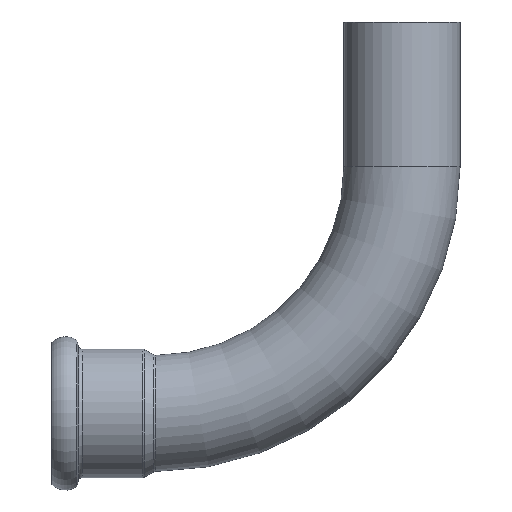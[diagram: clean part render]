
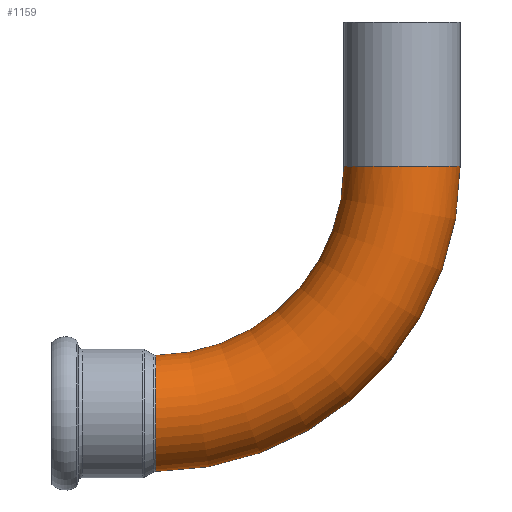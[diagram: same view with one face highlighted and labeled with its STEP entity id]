
A CAD part, top view. The second image highlights one B-rep face of the part: STEP entity #1159.
In plain terms, the highlighted toroidal (fillet/blend) face has major radius 60 mm and minor radius 14.1 mm.
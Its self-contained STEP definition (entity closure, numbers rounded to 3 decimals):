
#77 = CARTESIAN_POINT ( 'NONE',  ( 0.253, -47.882, 7.265 ) ) ;
#80 = CARTESIAN_POINT ( 'NONE',  ( 0.254, -45.942, 1.12 ) ) ;
#112 = DIRECTION ( 'NONE',  ( 1., 0., 0. ) ) ;
#115 = CARTESIAN_POINT ( 'NONE',  ( 0.253, -47.264, 6.069 ) ) ;
#176 = CARTESIAN_POINT ( 'NONE',  ( 0.247, -70.512, 9.408 ) ) ;
#185 = CARTESIAN_POINT ( 'NONE',  ( 0., 0., 0. ) ) ;
#195 = ORIENTED_EDGE ( 'NONE', *, *, #647, .T. ) ;
#214 = DIRECTION ( 'NONE',  ( -1., 0., 0. ) ) ;
#250 = AXIS2_PLACEMENT_3D ( 'NONE', #2084, #2538, #214 ) ;
#271 = CARTESIAN_POINT ( 'NONE',  ( 0.253, -46.597, 4.402 ) ) ;
#285 = CARTESIAN_POINT ( 'NONE',  ( 0.248, -67.82, 11.741 ) ) ;
#299 = CARTESIAN_POINT ( 'NONE',  ( 0.247, -69.586, 10.378 ) ) ;
#308 = DIRECTION ( 'NONE',  ( 0., 0., 1. ) ) ;
#312 = CARTESIAN_POINT ( 'NONE',  ( 0.254, -45.963, 1.344 ) ) ;
#315 = CARTESIAN_POINT ( 'NONE',  ( 45.9, 0., 0. ) ) ;
#361 = DIRECTION ( 'NONE',  ( 0., 0., 1. ) ) ;
#368 = DIRECTION ( 'NONE',  ( 1., 0., 0. ) ) ;
#380 = DIRECTION ( 'NONE',  ( 0., 0., 1. ) ) ;
#476 = ORIENTED_EDGE ( 'NONE', *, *, #2311, .F. ) ;
#537 = CARTESIAN_POINT ( 'NONE',  ( 0.249, -62.448, 13.893 ) ) ;
#576 = VERTEX_POINT ( 'NONE', #315 ) ;
#604 = CARTESIAN_POINT ( 'NONE',  ( 0.247, -73.656, 3.536 ) ) ;
#647 = EDGE_CURVE ( 'NONE', #2672, #752, #1437, .T. ) ;
#700 = CARTESIAN_POINT ( 'NONE',  ( 0.254, -45.899, 0. ) ) ;
#731 = CARTESIAN_POINT ( 'NONE',  ( 0.253, -46.742, 4.824 ) ) ;
#748 = ORIENTED_EDGE ( 'NONE', *, *, #1147, .T. ) ;
#752 = VERTEX_POINT ( 'NONE', #2356 ) ;
#757 = CARTESIAN_POINT ( 'NONE',  ( 0.247, -71.624, 7.993 ) ) ;
#776 = CARTESIAN_POINT ( 'NONE',  ( 0.247, -71.364, 8.358 ) ) ;
#833 = EDGE_CURVE ( 'NONE', #1922, #2534, #1540, .T. ) ;
#907 = CARTESIAN_POINT ( 'NONE',  ( 0.25, -56.236, 13.618 ) ) ;
#921 = CARTESIAN_POINT ( 'NONE',  ( 0.251, -53.337, 12.434 ) ) ;
#923 = CARTESIAN_POINT ( 'NONE',  ( 0.254, -45.963, 1.344 ) ) ;
#1113 = CARTESIAN_POINT ( 'NONE',  ( 0.248, -64.204, 13.489 ) ) ;
#1124 = CARTESIAN_POINT ( 'NONE',  ( 0.254, -45.91, 0.673 ) ) ;
#1145 = CARTESIAN_POINT ( 'NONE',  ( 0.253, -48.364, 8.014 ) ) ;
#1147 = EDGE_CURVE ( 'NONE', #2534, #2672, #1918, .T. ) ;
#1155 = CARTESIAN_POINT ( 'NONE',  ( 0.253, -46.22, 3.12 ) ) ;
#1159 = ADVANCED_FACE ( 'NONE', ( #2005 ), #1473, .T. ) ;
#1169 = CARTESIAN_POINT ( 'NONE',  ( 0.247, -73.256, 4.824 ) ) ;
#1315 = CARTESIAN_POINT ( 'NONE',  ( 0.248, -67.439, 11.986 ) ) ;
#1327 = CARTESIAN_POINT ( 'NONE',  ( 0.251, -52.173, 11.763 ) ) ;
#1342 = CARTESIAN_POINT ( 'NONE',  ( 0.253, -47.076, 5.656 ) ) ;
#1351 = ORIENTED_EDGE ( 'NONE', *, *, #2522, .F. ) ;
#1367 = CARTESIAN_POINT ( 'NONE',  ( 0.249, -62.892, 13.807 ) ) ;
#1373 = AXIS2_PLACEMENT_3D ( 'NONE', #2051, #380, #368 ) ;
#1395 = EDGE_LOOP ( 'NONE', ( #748, #195, #476, #1351, #1762 ) ) ;
#1437 = CIRCLE ( 'NONE', #1565, 74.1 ) ;
#1470 = CARTESIAN_POINT ( 'NONE',  ( 0.254, -45.963, 1.344 ) ) ;
#1473 = TOROIDAL_SURFACE ( 'NONE', #1373, 60., 14.1 ) ;
#1508 = CARTESIAN_POINT ( 'NONE',  ( 0.247, -74.1, 0. ) ) ;
#1525 = CARTESIAN_POINT ( 'NONE',  ( 0.254, -45.899, 0.224 ) ) ;
#1532 = CARTESIAN_POINT ( 'NONE',  ( 0.254, -46.05, 2.243 ) ) ;
#1540 = B_SPLINE_CURVE_WITH_KNOTS ( 'NONE', 3,
 ( #700, #1525, #1124, #80, #923 ),
 .UNSPECIFIED., .F., .F.,
 ( 4, 1, 4 ),
 ( 0., 0.001, 0.001 ),
 .UNSPECIFIED. ) ;
#1551 = CIRCLE ( 'NONE', #250, 14.1 ) ;
#1565 = AXIS2_PLACEMENT_3D ( 'NONE', #185, #361, #2682 ) ;
#1567 = CARTESIAN_POINT ( 'NONE',  ( 0.25, -58.889, 14.063 ) ) ;
#1576 = CARTESIAN_POINT ( 'NONE',  ( 0.252, -49.192, 9.067 ) ) ;
#1603 = AXIS2_PLACEMENT_3D ( 'NONE', #1809, #308, #112 ) ;
#1622 = CARTESIAN_POINT ( 'NONE',  ( 0.247, -72.755, 6.075 ) ) ;
#1636 = CARTESIAN_POINT ( 'NONE',  ( 0.247, -73.761, 3.103 ) ) ;
#1734 = CARTESIAN_POINT ( 'NONE',  ( 0.248, -66.262, 12.641 ) ) ;
#1744 = CARTESIAN_POINT ( 'NONE',  ( 0.249, -61.562, 14.02 ) ) ;
#1756 = CARTESIAN_POINT ( 'NONE',  ( 0.252, -50.434, 10.369 ) ) ;
#1762 = ORIENTED_EDGE ( 'NONE', *, *, #833, .T. ) ;
#1765 = CARTESIAN_POINT ( 'NONE',  ( 0.25, -58.44, 14.021 ) ) ;
#1777 = CARTESIAN_POINT ( 'NONE',  ( 0.254, -45.899, 0. ) ) ;
#1782 = CARTESIAN_POINT ( 'NONE',  ( 0.252, -50.108, 10.058 ) ) ;
#1809 = CARTESIAN_POINT ( 'NONE',  ( 0., 0., 0. ) ) ;
#1812 = CARTESIAN_POINT ( 'NONE',  ( 0.247, -72.347, 6.867 ) ) ;
#1845 = CARTESIAN_POINT ( 'NONE',  ( 0.247, -73.404, 4.395 ) ) ;
#1918 = B_SPLINE_CURVE_WITH_KNOTS ( 'NONE', 3,
 ( #312, #1532, #1155, #271, #731, #1342, #115, #77, #1145, #1576, #2571, #1782, #1756, #2383, #1327, #921, #1958, #2173, #1969, #907, #1982, #1765, #1567, #2199, #2605, #1744, #537, #1367, #1113, #1947, #1734, #2375, #1315, #285, #2586, #299, #176, #2647, #776, #757, #1812, #1622, #1169, #1845, #604, #1636, #2462, #2475, #2449 ),
 .UNSPECIFIED., .F., .F.,
 ( 4, 2, 2, 2, 2, 2, 2, 2, 2, 2, 2, 2, 1, 2, 2, 2, 2, 2, 2, 2, 2, 2, 2, 2, 4 ),
 ( 0.001, 0.004, 0.005, 0.007, 0.009, 0.011, 0.012, 0.015, 0.016, 0.018, 0.02, 0.022, 0.023, 0.024, 0.026, 0.028, 0.03, 0.031, 0.034, 0.035, 0.037, 0.039, 0.041, 0.042, 0.045 ),
 .UNSPECIFIED. ) ;
#1922 = VERTEX_POINT ( 'NONE', #1777 ) ;
#1947 = CARTESIAN_POINT ( 'NONE',  ( 0.248, -65.046, 13.196 ) ) ;
#1958 = CARTESIAN_POINT ( 'NONE',  ( 0.251, -53.739, 12.642 ) ) ;
#1969 = CARTESIAN_POINT ( 'NONE',  ( 0.251, -54.972, 13.181 ) ) ;
#1982 = CARTESIAN_POINT ( 'NONE',  ( 0.25, -57.102, 13.829 ) ) ;
#2005 = FACE_OUTER_BOUND ( 'NONE', #1395, .T. ) ;
#2051 = CARTESIAN_POINT ( 'NONE',  ( 0., 0., 0. ) ) ;
#2084 = CARTESIAN_POINT ( 'NONE',  ( 60., 0., 0. ) ) ;
#2173 = CARTESIAN_POINT ( 'NONE',  ( 0.251, -54.557, 13.015 ) ) ;
#2199 = CARTESIAN_POINT ( 'NONE',  ( 0.249, -59.783, 14.105 ) ) ;
#2311 = EDGE_CURVE ( 'NONE', #576, #752, #1551, .T. ) ;
#2356 = CARTESIAN_POINT ( 'NONE',  ( 74.1, 0., 0. ) ) ;
#2375 = CARTESIAN_POINT ( 'NONE',  ( 0.248, -66.66, 12.436 ) ) ;
#2383 = CARTESIAN_POINT ( 'NONE',  ( 0.252, -51.447, 11.246 ) ) ;
#2449 = CARTESIAN_POINT ( 'NONE',  ( 0.247, -74.1, 0. ) ) ;
#2462 = CARTESIAN_POINT ( 'NONE',  ( 0.247, -74.014, 1.792 ) ) ;
#2475 = CARTESIAN_POINT ( 'NONE',  ( 0.247, -74.1, 0.903 ) ) ;
#2485 = CIRCLE ( 'NONE', #1603, 45.9 ) ;
#2522 = EDGE_CURVE ( 'NONE', #1922, #576, #2485, .T. ) ;
#2534 = VERTEX_POINT ( 'NONE', #1470 ) ;
#2538 = DIRECTION ( 'NONE',  ( 0., 1., 0. ) ) ;
#2571 = CARTESIAN_POINT ( 'NONE',  ( 0.252, -49.485, 9.405 ) ) ;
#2586 = CARTESIAN_POINT ( 'NONE',  ( 0.248, -68.913, 10.962 ) ) ;
#2605 = CARTESIAN_POINT ( 'NONE',  ( 0.249, -60.674, 14.105 ) ) ;
#2647 = CARTESIAN_POINT ( 'NONE',  ( 0.247, -70.808, 9.066 ) ) ;
#2672 = VERTEX_POINT ( 'NONE', #1508 ) ;
#2682 = DIRECTION ( 'NONE',  ( 1., 0., 0. ) ) ;
